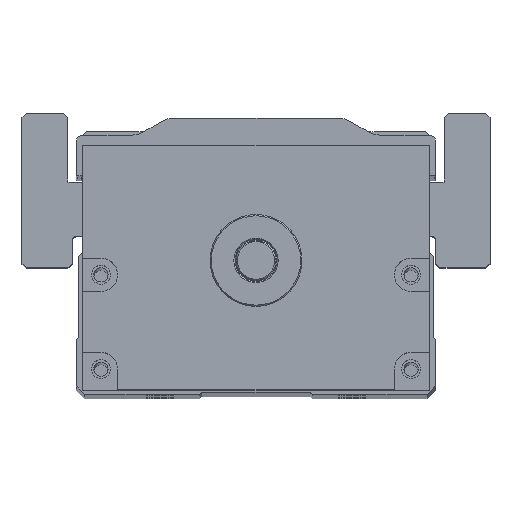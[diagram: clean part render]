
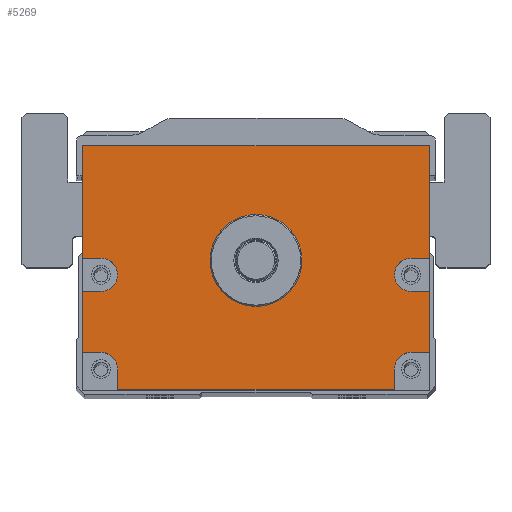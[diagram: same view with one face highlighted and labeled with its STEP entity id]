
A CAD part, top view. The second image highlights one B-rep face of the part: STEP entity #5269.
In plain terms, the highlighted planar face has unit normal (0, 0, 1).
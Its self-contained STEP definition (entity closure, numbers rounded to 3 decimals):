
#3799=FACE_BOUND('',#7040,.T.);
#3800=FACE_BOUND('',#7041,.T.);
#4335=CIRCLE('',#16049,11.);
#4346=CIRCLE('',#16063,4.);
#4347=CIRCLE('',#16064,4.);
#4348=CIRCLE('',#16065,4.);
#4349=CIRCLE('',#16066,4.);
#5269=ADVANCED_FACE('',(#3799,#3800),#5765,.T.);
#5765=PLANE('',#16067);
#7040=EDGE_LOOP('',(#9649,#9650,#9651,#9652,#9653,#9654,#9655,#9656,#9657,
#9658,#9659,#9660,#9661,#9662,#9663,#9664,#9665,#9666));
#7041=EDGE_LOOP('',(#9667));
#9649=ORIENTED_EDGE('',*,*,#13029,.F.);
#9650=ORIENTED_EDGE('',*,*,#13030,.T.);
#9651=ORIENTED_EDGE('',*,*,#13031,.F.);
#9652=ORIENTED_EDGE('',*,*,#13032,.F.);
#9653=ORIENTED_EDGE('',*,*,#13033,.F.);
#9654=ORIENTED_EDGE('',*,*,#13034,.T.);
#9655=ORIENTED_EDGE('',*,*,#13025,.T.);
#9656=ORIENTED_EDGE('',*,*,#13035,.T.);
#9657=ORIENTED_EDGE('',*,*,#13036,.F.);
#9658=ORIENTED_EDGE('',*,*,#13037,.F.);
#9659=ORIENTED_EDGE('',*,*,#13038,.F.);
#9660=ORIENTED_EDGE('',*,*,#13039,.T.);
#9661=ORIENTED_EDGE('',*,*,#13040,.F.);
#9662=ORIENTED_EDGE('',*,*,#13041,.F.);
#9663=ORIENTED_EDGE('',*,*,#13042,.F.);
#9664=ORIENTED_EDGE('',*,*,#13043,.T.);
#9665=ORIENTED_EDGE('',*,*,#13044,.F.);
#9666=ORIENTED_EDGE('',*,*,#13045,.F.);
#9667=ORIENTED_EDGE('',*,*,#13011,.T.);
#11498=VERTEX_POINT('',#23383);
#11511=VERTEX_POINT('',#23411);
#11512=VERTEX_POINT('',#23413);
#11515=VERTEX_POINT('',#23421);
#11516=VERTEX_POINT('',#23422);
#11517=VERTEX_POINT('',#23424);
#11518=VERTEX_POINT('',#23426);
#11519=VERTEX_POINT('',#23428);
#11520=VERTEX_POINT('',#23430);
#11521=VERTEX_POINT('',#23433);
#11522=VERTEX_POINT('',#23435);
#11523=VERTEX_POINT('',#23437);
#11524=VERTEX_POINT('',#23439);
#11525=VERTEX_POINT('',#23441);
#11526=VERTEX_POINT('',#23443);
#11527=VERTEX_POINT('',#23445);
#11528=VERTEX_POINT('',#23447);
#11529=VERTEX_POINT('',#23449);
#11530=VERTEX_POINT('',#23451);
#13011=EDGE_CURVE('',#11498,#11498,#4335,.T.);
#13025=EDGE_CURVE('',#11512,#11511,#14173,.T.);
#13029=EDGE_CURVE('',#11515,#11516,#14175,.T.);
#13030=EDGE_CURVE('',#11515,#11517,#14176,.T.);
#13031=EDGE_CURVE('',#11518,#11517,#14177,.T.);
#13032=EDGE_CURVE('',#11519,#11518,#4346,.T.);
#13033=EDGE_CURVE('',#11520,#11519,#14178,.T.);
#13034=EDGE_CURVE('',#11520,#11512,#14179,.T.);
#13035=EDGE_CURVE('',#11511,#11521,#14180,.T.);
#13036=EDGE_CURVE('',#11522,#11521,#14181,.T.);
#13037=EDGE_CURVE('',#11523,#11522,#4347,.T.);
#13038=EDGE_CURVE('',#11524,#11523,#14182,.T.);
#13039=EDGE_CURVE('',#11524,#11525,#14183,.T.);
#13040=EDGE_CURVE('',#11526,#11525,#14184,.T.);
#13041=EDGE_CURVE('',#11527,#11526,#4348,.T.);
#13042=EDGE_CURVE('',#11528,#11527,#14185,.T.);
#13043=EDGE_CURVE('',#11528,#11529,#14186,.T.);
#13044=EDGE_CURVE('',#11530,#11529,#14187,.T.);
#13045=EDGE_CURVE('',#11516,#11530,#4349,.T.);
#14173=LINE('',#23412,#15024);
#14175=LINE('',#23420,#15026);
#14176=LINE('',#23423,#15027);
#14177=LINE('',#23425,#15028);
#14178=LINE('',#23429,#15029);
#14179=LINE('',#23431,#15030);
#14180=LINE('',#23432,#15031);
#14181=LINE('',#23434,#15032);
#14182=LINE('',#23438,#15033);
#14183=LINE('',#23440,#15034);
#14184=LINE('',#23442,#15035);
#14185=LINE('',#23446,#15036);
#14186=LINE('',#23448,#15037);
#14187=LINE('',#23450,#15038);
#15024=VECTOR('',#18694,1.);
#15026=VECTOR('',#18702,1.);
#15027=VECTOR('',#18703,1.);
#15028=VECTOR('',#18704,1.);
#15029=VECTOR('',#18707,1.);
#15030=VECTOR('',#18708,1.);
#15031=VECTOR('',#18709,1.);
#15032=VECTOR('',#18710,1.);
#15033=VECTOR('',#18713,1.);
#15034=VECTOR('',#18714,1.);
#15035=VECTOR('',#18715,1.);
#15036=VECTOR('',#18718,1.);
#15037=VECTOR('',#18719,1.);
#15038=VECTOR('',#18720,1.);
#16049=AXIS2_PLACEMENT_3D('',#23382,#18667,#18668);
#16063=AXIS2_PLACEMENT_3D('',#23427,#18705,#18706);
#16064=AXIS2_PLACEMENT_3D('',#23436,#18711,#18712);
#16065=AXIS2_PLACEMENT_3D('',#23444,#18716,#18717);
#16066=AXIS2_PLACEMENT_3D('',#23452,#18721,#18722);
#16067=AXIS2_PLACEMENT_3D('',#23453,#18723,#18724);
#18667=DIRECTION('',(0.,0.,-1.));
#18668=DIRECTION('',(1.,0.,0.));
#18694=DIRECTION('',(-1.,0.,0.));
#18702=DIRECTION('',(-1.,0.,0.));
#18703=DIRECTION('',(0.,1.,0.));
#18704=DIRECTION('',(1.,0.,0.));
#18705=DIRECTION('',(0.,0.,1.));
#18706=DIRECTION('',(1.,0.,0.));
#18707=DIRECTION('',(-1.,0.,0.));
#18708=DIRECTION('',(0.,1.,0.));
#18709=DIRECTION('',(0.,-1.,0.));
#18710=DIRECTION('',(-1.,0.,0.));
#18711=DIRECTION('',(0.,0.,1.));
#18712=DIRECTION('',(1.,0.,0.));
#18713=DIRECTION('',(1.,0.,0.));
#18714=DIRECTION('',(0.,-1.,0.));
#18715=DIRECTION('',(-1.,0.,0.));
#18716=DIRECTION('',(0.,0.,1.));
#18717=DIRECTION('',(1.,0.,0.));
#18718=DIRECTION('',(0.,1.,0.));
#18719=DIRECTION('',(1.,0.,0.));
#18720=DIRECTION('',(0.,-1.,0.));
#18721=DIRECTION('',(0.,0.,1.));
#18722=DIRECTION('',(1.,0.,0.));
#18723=DIRECTION('',(0.,0.,1.));
#18724=DIRECTION('',(1.,0.,0.));
#23382=CARTESIAN_POINT('',(300.,0.,482.5));
#23383=CARTESIAN_POINT('',(311.,0.,482.5));
#23411=CARTESIAN_POINT('',(258.5,27.5,482.5));
#23412=CARTESIAN_POINT('',(341.5,27.5,482.5));
#23413=CARTESIAN_POINT('',(341.5,27.5,482.5));
#23420=CARTESIAN_POINT('',(341.5,-22.,482.5));
#23421=CARTESIAN_POINT('',(341.5,-22.,482.5));
#23422=CARTESIAN_POINT('',(337.115,-22.,482.5));
#23423=CARTESIAN_POINT('',(341.5,-31.,482.5));
#23424=CARTESIAN_POINT('',(341.5,-7.431,482.5));
#23425=CARTESIAN_POINT('',(341.5,-7.431,482.5));
#23426=CARTESIAN_POINT('',(337.115,-7.431,482.5));
#23427=CARTESIAN_POINT('',(337.115,-3.431,482.5));
#23428=CARTESIAN_POINT('',(337.115,0.569,482.5));
#23429=CARTESIAN_POINT('',(341.5,0.569,482.5));
#23430=CARTESIAN_POINT('',(341.5,0.569,482.5));
#23431=CARTESIAN_POINT('',(341.5,-31.,482.5));
#23432=CARTESIAN_POINT('',(258.5,27.5,482.5));
#23433=CARTESIAN_POINT('',(258.5,0.569,482.5));
#23434=CARTESIAN_POINT('',(341.5,0.569,482.5));
#23435=CARTESIAN_POINT('',(262.885,0.569,482.5));
#23436=CARTESIAN_POINT('',(262.885,-3.431,482.5));
#23437=CARTESIAN_POINT('',(262.885,-7.431,482.5));
#23438=CARTESIAN_POINT('',(341.5,-7.431,482.5));
#23439=CARTESIAN_POINT('',(258.5,-7.431,482.5));
#23440=CARTESIAN_POINT('',(258.5,27.5,482.5));
#23441=CARTESIAN_POINT('',(258.5,-22.,482.5));
#23442=CARTESIAN_POINT('',(341.5,-22.,482.5));
#23443=CARTESIAN_POINT('',(262.885,-22.,482.5));
#23444=CARTESIAN_POINT('',(262.885,-26.,482.5));
#23445=CARTESIAN_POINT('',(266.885,-26.,482.5));
#23446=CARTESIAN_POINT('',(266.885,-31.,482.5));
#23447=CARTESIAN_POINT('',(266.885,-31.,482.5));
#23448=CARTESIAN_POINT('',(258.5,-31.,482.5));
#23449=CARTESIAN_POINT('',(333.115,-31.,482.5));
#23450=CARTESIAN_POINT('',(333.115,-31.,482.5));
#23451=CARTESIAN_POINT('',(333.115,-26.,482.5));
#23452=CARTESIAN_POINT('',(337.115,-26.,482.5));
#23453=CARTESIAN_POINT('',(341.5,-31.,482.5));
